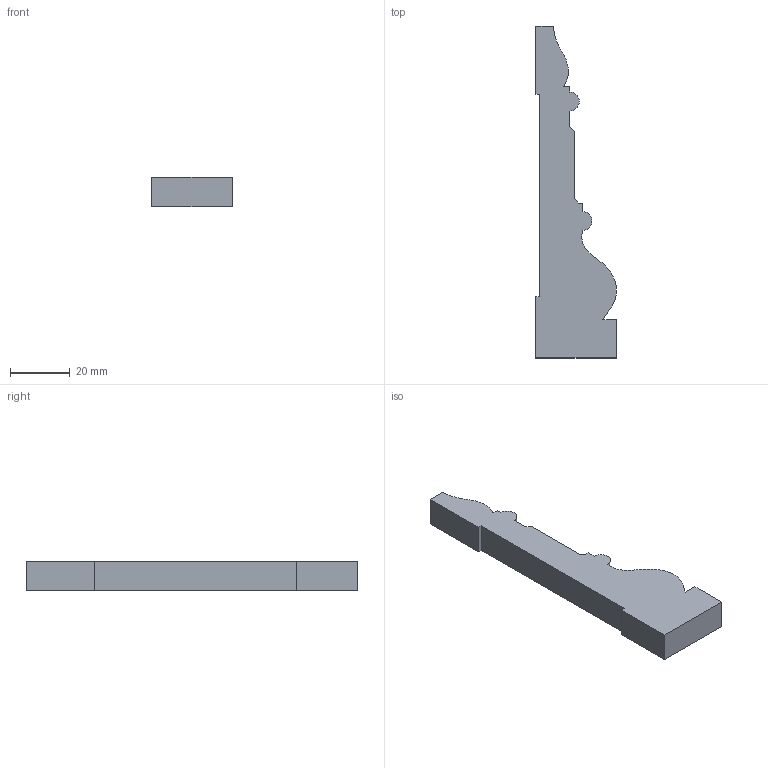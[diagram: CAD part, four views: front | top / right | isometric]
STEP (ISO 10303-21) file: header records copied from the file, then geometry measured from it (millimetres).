
FILE_DESCRIPTION (( 'STEP AP203' ), '1' );
FILE_NAME ('AB129.STEP', '2024-02-17T09:21:37', ( '' ), ( '' ), 'SwSTEP 2.0', 'SolidWorks 2020', '' );
FILE_SCHEMA (( 'CONFIG_CONTROL_DESIGN' ));
Length unit declared in the file: millimetre
Products named in the file (1): AB129
Bounding box: 26.99 x 110.79 x 10 mm (x, y, z)
Volume: 17593.7 mm3; surface area: 6317.7 mm2
Topology: 1 solids, 1 shells, 83 faces, 243 edges, 162 vertices
Faces by surface type: plane 81, cylinder 2
Entity records: 2778 total; most frequent: CARTESIAN_POINT 489, ORIENTED_EDGE 486, DIRECTION 415, EDGE_CURVE 243, VECTOR 239, LINE 239, VERTEX_POINT 162, AXIS2_PLACEMENT_3D 88
